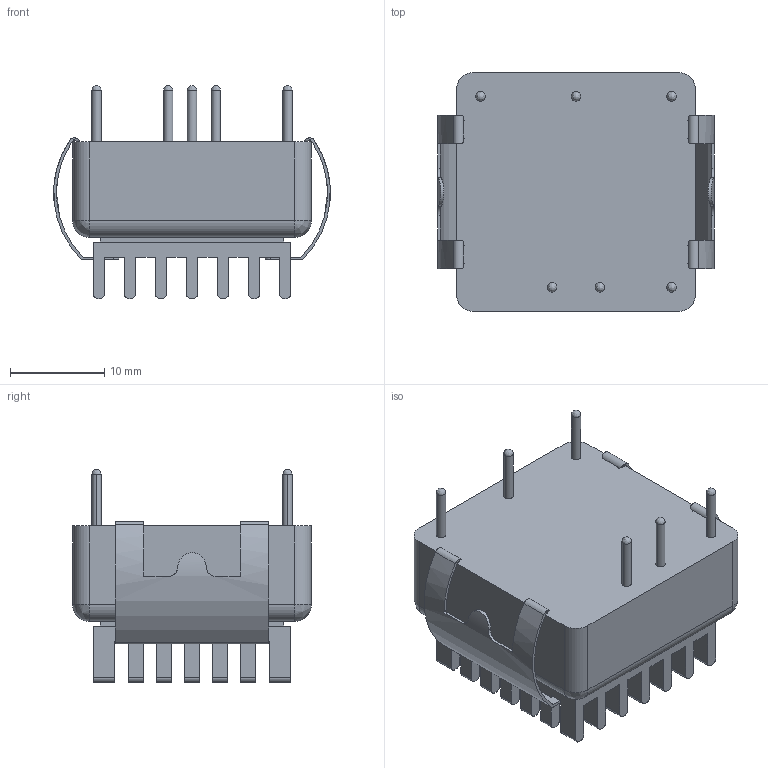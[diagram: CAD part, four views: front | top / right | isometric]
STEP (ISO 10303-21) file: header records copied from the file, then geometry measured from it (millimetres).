
FILE_DESCRIPTION (( 'STEP AP214' ), '1' );
FILE_NAME ('JWK25HK.STEP', '2016-08-22T11:41:49', ( 'XP Power' ), ( '' ), 'SwSTEP 2.0', 'SolidWorks 2016', '' );
FILE_SCHEMA (( 'AUTOMOTIVE_DESIGN' ));
Length unit declared in the file: millimetre
Products named in the file (5): Heatsink; Clamp; Body; JWK25HK; Thermal Pad
Assembly tree (5 placements, depth 2):
  JWK25HK
    Body
    Clamp  x2
    Heatsink
    Thermal Pad
Bounding box: 29.42 x 25.4 x 22.66 mm (x, y, z)
Surface area: 6317.6 mm2 (no closed solid volume)
Topology: 0 solids, 5 shells, 447 faces, 1234 edges, 812 vertices
Faces by surface type: plane 277, cylinder 160, bspline 10
Entity records: 13134 total; most frequent: CARTESIAN_POINT 2515, ORIENTED_EDGE 2196, DIRECTION 2182, EDGE_CURVE 1098, VECTOR 792, LINE 792, VERTEX_POINT 732, AXIS2_PLACEMENT_3D 695
